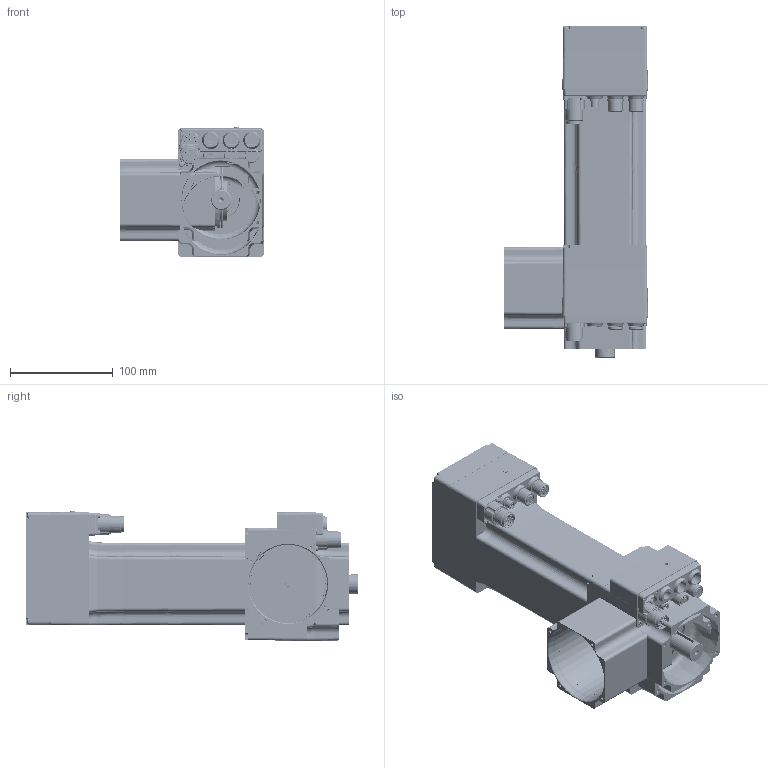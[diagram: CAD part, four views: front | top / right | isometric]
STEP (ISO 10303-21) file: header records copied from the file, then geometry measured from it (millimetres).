
FILE_DESCRIPTION( ( 'Unknown' ), '1' );
FILE_NAME( 'C:/Users/dotti/Desktop/Q0B022/Q0B222 2,8.stp', 'Unknown', ( 'Unknown' ), ( 'Unknown' ), 'PSStep 14.0', 'Unknown', ' ' );
FILE_SCHEMA( ( 'AUTOMOTIVE_DESIGN { 1 0 10303 214 1 1 1 1 }' ) );
Length unit declared in the file: millimetre
Products named in the file (53): T00272; Assem1; 005117000974; N54236; CN M23 PAN-POT BEGA 906 4+5p; VECST-8112 M  2,5 x 12; G00030_ethercat; N33250; LI-PIA   6x6 x 30; LI-PIA   5x5 x 18; CUSC_20_42_12_6004_ZZ; CUSC_15_32_9_6002_ZZ; a-ela  20; Anello-elastico-chiuso  42; N09284; Anello-elastico-chiuso  32; 003155001098; Vite a brugola testa cil 8,8 -  M  3 x 25; Vite a brugola testa cil 8,8 -  M  3 x 25-oa0; Vite a brugola testa cil 8,8 -  M  3 x 25-oa1; Vite a brugola testa cil 8,8 -  M  3 x 25-oa2; Vite a brugola testa cil 8,8 -  M  3 x 40; Vite a brugola testa cil 8,8 -  M  3 x 40-oa3; Vite a brugola testa cil 8,8 -  M  3 x 40-oa4; Vite a brugola testa cil 8,8 -  M  3 x 40-oa5; Vite a brugola testa cil 8,8 -  M  3 x 40-oa6; Vite a brugola testa cil 8,8 -  M  3 x 40-oa7; Vite a brugola testa cil 8,8 -  M  3 x 40-oa8; Vite a brugola testa cil 8,8 -  M  3 x 40-oa9; N35217; VECST-8112 M  3 x 25; Anello OR 1,78 D72,75-2287-oa10; Anello OR 1,78 D72,75-2287-oa11; Anello OR 1,78 D72,75-2287-oa12; Anello OR 2 D32-oa13; 003016000054; N01399; N54239
Bounding box: 139.5 x 322.64 x 126.21 mm (x, y, z)
Volume: 1343329.4 mm3; surface area: 657910.3 mm2
Topology: 119 solids, 123 shells, 7268 faces, 19478 edges, 12747 vertices
Faces by surface type: plane 3888, cylinder 2470, cone 309, bspline 283, torus 265, sphere 53
Full cylindrical faces by diameter (mm): 1 x39, 1.5 x12, 1.6 x45, 2 x4, 2.4 x24, 2.459 x62, 2.5 x17, 2.7 x12, 3 x29, 3.242 x4, 3.5 x48, 4 x5, 4.2 x2, 4.917 x2, 5 x11, 5.5 x26, 6 x34, 8 x17, 8.5 x9, 8.75 x3, 9 x8, 10 x3, 11 x15, 11.9 x5, 12 x8, 14 x7, 14.4 x3, 14.5 x3, 15 x4, 15.001 x2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
Entity records: 93914 total; most frequent: CARTESIAN_POINT 24652, DIRECTION 11409, ORIENTED_EDGE 11054, EDGE_CURVE 5527, AXIS2_PLACEMENT_3D 4248, VERTEX_POINT 3826, EDGE_LOOP 3027, LINE 2913
